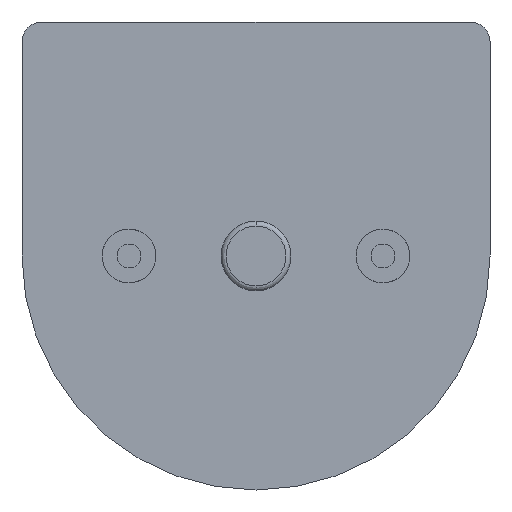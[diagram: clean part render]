
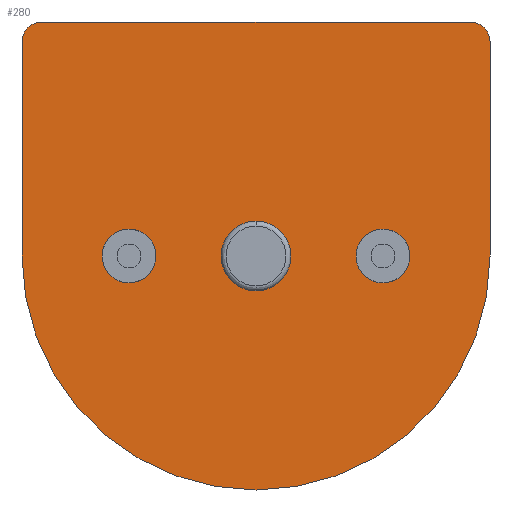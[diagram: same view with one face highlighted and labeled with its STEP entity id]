
A CAD part, front view. The second image highlights one B-rep face of the part: STEP entity #280.
In plain terms, the highlighted planar face has unit normal (0, -1, 0).
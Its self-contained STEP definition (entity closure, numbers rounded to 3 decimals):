
#32 = EDGE_CURVE('',#33,#35,#37,.T.);
#33 = VERTEX_POINT('',#34);
#34 = CARTESIAN_POINT('',(-2.15,0.45,2.35));
#35 = VERTEX_POINT('',#36);
#36 = CARTESIAN_POINT('',(-2.35,0.45,2.15));
#37 = CIRCLE('',#38,0.2);
#38 = AXIS2_PLACEMENT_3D('',#39,#40,#41);
#39 = CARTESIAN_POINT('',(-2.15,0.45,2.15));
#40 = DIRECTION('',(0.,-1.,0.));
#41 = DIRECTION('',(-0.,-0.,-1.));
#100 = EDGE_CURVE('',#101,#103,#105,.T.);
#101 = VERTEX_POINT('',#102);
#102 = CARTESIAN_POINT('',(2.35,0.45,2.15));
#103 = VERTEX_POINT('',#104);
#104 = CARTESIAN_POINT('',(2.15,0.45,2.35));
#105 = CIRCLE('',#106,0.2);
#106 = AXIS2_PLACEMENT_3D('',#107,#108,#109);
#107 = CARTESIAN_POINT('',(2.15,0.45,2.15));
#108 = DIRECTION('',(0.,-1.,0.));
#109 = DIRECTION('',(-0.,-0.,-1.));
#203 = EDGE_CURVE('',#101,#204,#206,.T.);
#204 = VERTEX_POINT('',#205);
#205 = CARTESIAN_POINT('',(2.35,0.45,0.));
#206 = LINE('',#207,#208);
#207 = CARTESIAN_POINT('',(2.35,0.45,2.15));
#208 = VECTOR('',#209,1.);
#209 = DIRECTION('',(0.,0.,-1.));
#227 = EDGE_CURVE('',#33,#103,#228,.T.);
#228 = LINE('',#229,#230);
#229 = CARTESIAN_POINT('',(-2.15,0.45,2.35));
#230 = VECTOR('',#231,1.);
#231 = DIRECTION('',(1.,0.,0.));
#242 = EDGE_CURVE('',#243,#35,#245,.T.);
#243 = VERTEX_POINT('',#244);
#244 = CARTESIAN_POINT('',(-2.35,0.45,0.));
#245 = LINE('',#246,#247);
#246 = CARTESIAN_POINT('',(-2.35,0.45,0.));
#247 = VECTOR('',#248,1.);
#248 = DIRECTION('',(0.,0.,1.));
#268 = EDGE_CURVE('',#204,#243,#269,.T.);
#269 = CIRCLE('',#270,2.35);
#270 = AXIS2_PLACEMENT_3D('',#271,#272,#273);
#271 = CARTESIAN_POINT('',(0.,0.45,0.));
#272 = DIRECTION('',(0.,1.,0.));
#273 = DIRECTION('',(-1.,0.,0.));
#280 = ADVANCED_FACE('',(#281,#289,#309,#329),#349,.F.);
#281 = FACE_BOUND('',#282,.T.);
#282 = EDGE_LOOP('',(#283,#284,#285,#286,#287,#288));
#283 = ORIENTED_EDGE('',*,*,#227,.F.);
#284 = ORIENTED_EDGE('',*,*,#32,.T.);
#285 = ORIENTED_EDGE('',*,*,#242,.F.);
#286 = ORIENTED_EDGE('',*,*,#268,.F.);
#287 = ORIENTED_EDGE('',*,*,#203,.F.);
#288 = ORIENTED_EDGE('',*,*,#100,.T.);
#289 = FACE_BOUND('',#290,.T.);
#290 = EDGE_LOOP('',(#291,#302));
#291 = ORIENTED_EDGE('',*,*,#292,.F.);
#292 = EDGE_CURVE('',#293,#295,#297,.T.);
#293 = VERTEX_POINT('',#294);
#294 = CARTESIAN_POINT('',(-1.275,0.45,0.27));
#295 = VERTEX_POINT('',#296);
#296 = CARTESIAN_POINT('',(-1.275,0.45,-0.27));
#297 = CIRCLE('',#298,0.27);
#298 = AXIS2_PLACEMENT_3D('',#299,#300,#301);
#299 = CARTESIAN_POINT('',(-1.275,0.45,0.));
#300 = DIRECTION('',(0.,-1.,0.));
#301 = DIRECTION('',(0.,0.,-1.));
#302 = ORIENTED_EDGE('',*,*,#303,.F.);
#303 = EDGE_CURVE('',#295,#293,#304,.T.);
#304 = CIRCLE('',#305,0.27);
#305 = AXIS2_PLACEMENT_3D('',#306,#307,#308);
#306 = CARTESIAN_POINT('',(-1.275,0.45,0.));
#307 = DIRECTION('',(0.,-1.,0.));
#308 = DIRECTION('',(0.,0.,-1.));
#309 = FACE_BOUND('',#310,.T.);
#310 = EDGE_LOOP('',(#311,#322));
#311 = ORIENTED_EDGE('',*,*,#312,.T.);
#312 = EDGE_CURVE('',#313,#315,#317,.T.);
#313 = VERTEX_POINT('',#314);
#314 = CARTESIAN_POINT('',(0.,0.45,-0.35));
#315 = VERTEX_POINT('',#316);
#316 = CARTESIAN_POINT('',(0.,0.45,
    0.35));
#317 = CIRCLE('',#318,0.35);
#318 = AXIS2_PLACEMENT_3D('',#319,#320,#321);
#319 = CARTESIAN_POINT('',(0.,0.45,0.));
#320 = DIRECTION('',(0.,1.,0.));
#321 = DIRECTION('',(0.,0.,-1.));
#322 = ORIENTED_EDGE('',*,*,#323,.T.);
#323 = EDGE_CURVE('',#315,#313,#324,.T.);
#324 = CIRCLE('',#325,0.35);
#325 = AXIS2_PLACEMENT_3D('',#326,#327,#328);
#326 = CARTESIAN_POINT('',(0.,0.45,0.));
#327 = DIRECTION('',(0.,1.,0.));
#328 = DIRECTION('',(0.,0.,-1.));
#329 = FACE_BOUND('',#330,.T.);
#330 = EDGE_LOOP('',(#331,#342));
#331 = ORIENTED_EDGE('',*,*,#332,.F.);
#332 = EDGE_CURVE('',#333,#335,#337,.T.);
#333 = VERTEX_POINT('',#334);
#334 = CARTESIAN_POINT('',(1.275,0.45,0.27));
#335 = VERTEX_POINT('',#336);
#336 = CARTESIAN_POINT('',(1.275,0.45,-0.27));
#337 = CIRCLE('',#338,0.27);
#338 = AXIS2_PLACEMENT_3D('',#339,#340,#341);
#339 = CARTESIAN_POINT('',(1.275,0.45,0.));
#340 = DIRECTION('',(0.,-1.,0.));
#341 = DIRECTION('',(0.,0.,-1.));
#342 = ORIENTED_EDGE('',*,*,#343,.F.);
#343 = EDGE_CURVE('',#335,#333,#344,.T.);
#344 = CIRCLE('',#345,0.27);
#345 = AXIS2_PLACEMENT_3D('',#346,#347,#348);
#346 = CARTESIAN_POINT('',(1.275,0.45,0.));
#347 = DIRECTION('',(0.,-1.,0.));
#348 = DIRECTION('',(0.,0.,-1.));
#349 = PLANE('',#350);
#350 = AXIS2_PLACEMENT_3D('',#351,#352,#353);
#351 = CARTESIAN_POINT('',(-2.82,0.45,2.82));
#352 = DIRECTION('',(0.,1.,0.));
#353 = DIRECTION('',(1.,0.,0.));
